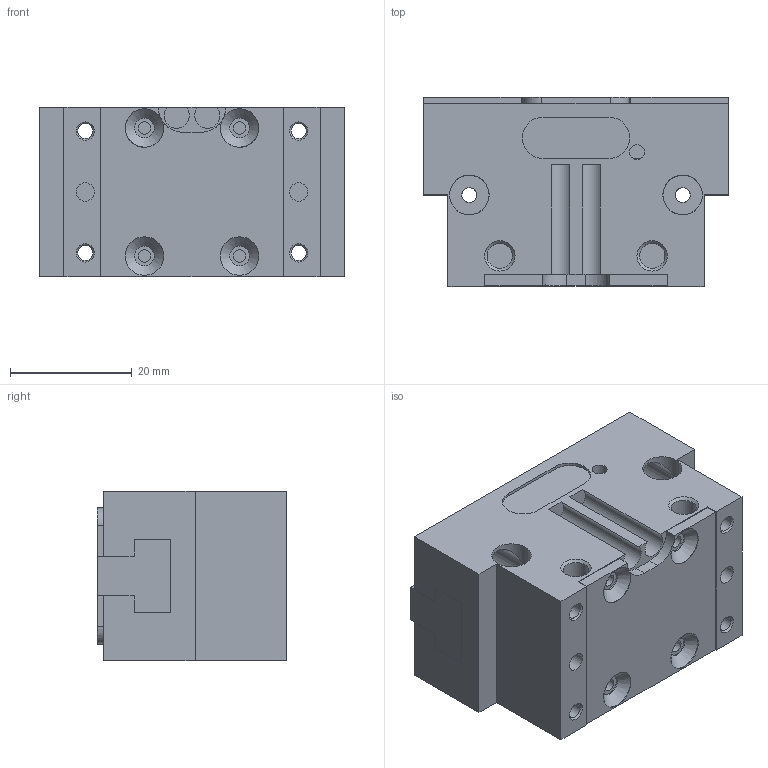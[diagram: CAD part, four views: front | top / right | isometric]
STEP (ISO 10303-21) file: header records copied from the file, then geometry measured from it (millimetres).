
FILE_DESCRIPTION( ( 'STEP AP214' ), '1' );
FILE_NAME( 'C:/Users/ashearer/Desktop/Mindman New CAD/Grippers/MCHS-SD-50_0_.stp', ' ', ( ' ' ), ( ' ' ), 'PSStep 15.0.47', 'PARTsolutions', ' ' );
FILE_SCHEMA( ( 'AUTOMOTIVE_DESIGN { 1 0 10303 214 1 1 1 1 }' ) );
Length unit declared in the file: millimetre
Products named in the file (4): MCHS-SD-50(0); _MCHS-SD-50(dummy_0); _MCHS-SD-50_body; _MCHS-SD-50_finger
Assembly tree (4 placements, depth 2):
  MCHS-SD-50(0)
    _MCHS-SD-50(dummy_0)
    _MCHS-SD-50_body
    _MCHS-SD-50_finger  x2
Bounding box: 50 x 31 x 27.8 mm (x, y, z)
Volume: 32521.5 mm3; surface area: 16077.8 mm2
Topology: 3 solids, 3 shells, 278 faces, 688 edges, 443 vertices
Faces by surface type: plane 172, cylinder 76, cone 30
Full cylindrical faces by diameter (mm): 2.013 x6, 2.459 x14, 3 x4, 3.2 x4, 4.134 x4, 5 x4, 6.3 x2, 6.5 x10
Entity records: 7879 total; most frequent: CARTESIAN_POINT 1155, DIRECTION 1037, ORIENTED_EDGE 888, EDGE_CURVE 444, AXIS2_PLACEMENT_3D 378, EDGE_LOOP 341, VERTEX_POINT 327, LINE 281
